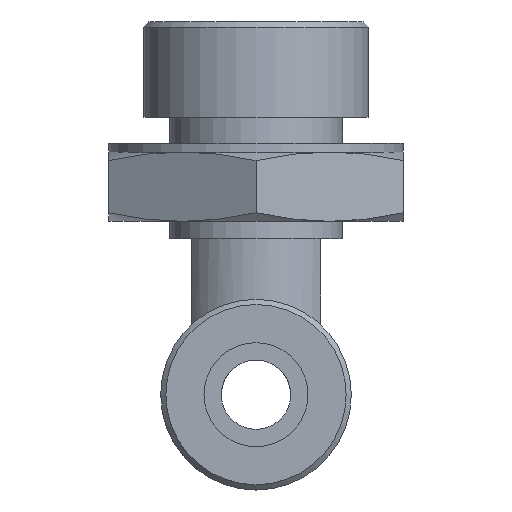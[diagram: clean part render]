
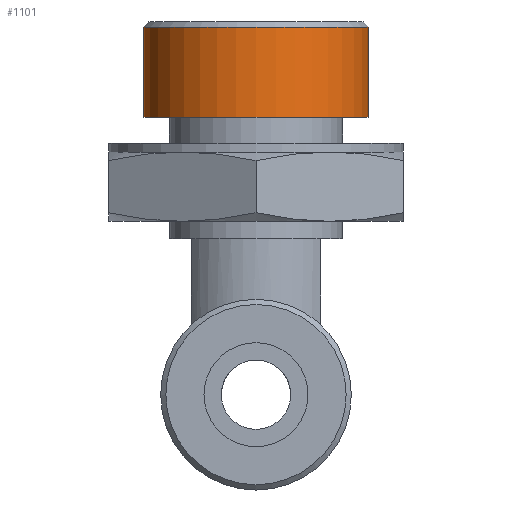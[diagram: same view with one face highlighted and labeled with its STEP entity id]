
A CAD part, front view. The second image highlights one B-rep face of the part: STEP entity #1101.
In plain terms, the highlighted cylindrical face has radius 6.5 mm (diameter 13 mm), a full revolution.
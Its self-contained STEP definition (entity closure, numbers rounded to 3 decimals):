
#141=FACE_OUTER_BOUND('',#221,.T.);
#221=EDGE_LOOP('',(#791,#792,#793,#794,#795));
#305=LINE('',#1872,#351);
#351=VECTOR('',#1491,6.5);
#412=CIRCLE('',#1270,6.5);
#413=CIRCLE('',#1271,6.5);
#414=CIRCLE('',#1274,6.5);
#498=VERTEX_POINT('',#1864);
#499=VERTEX_POINT('',#1866);
#500=VERTEX_POINT('',#1871);
#606=EDGE_CURVE('',#498,#499,#412,.T.);
#607=EDGE_CURVE('',#499,#498,#413,.T.);
#608=EDGE_CURVE('',#499,#500,#305,.T.);
#609=EDGE_CURVE('',#500,#500,#414,.T.);
#791=ORIENTED_EDGE('',*,*,#606,.F.);
#792=ORIENTED_EDGE('',*,*,#607,.F.);
#793=ORIENTED_EDGE('',*,*,#608,.T.);
#794=ORIENTED_EDGE('',*,*,#609,.T.);
#795=ORIENTED_EDGE('',*,*,#608,.F.);
#1070=CYLINDRICAL_SURFACE('',#1273,6.5);
#1101=ADVANCED_FACE('',(#141),#1070,.T.);
#1270=AXIS2_PLACEMENT_3D('',#1867,#1483,#1484);
#1271=AXIS2_PLACEMENT_3D('',#1868,#1485,#1486);
#1273=AXIS2_PLACEMENT_3D('',#1870,#1489,#1490);
#1274=AXIS2_PLACEMENT_3D('',#1873,#1492,#1493);
#1483=DIRECTION('center_axis',(0.,0.,1.));
#1484=DIRECTION('ref_axis',(1.,0.,0.));
#1485=DIRECTION('center_axis',(0.,0.,1.));
#1486=DIRECTION('ref_axis',(1.,0.,0.));
#1489=DIRECTION('center_axis',(0.,0.,1.));
#1490=DIRECTION('ref_axis',(-1.,0.,0.));
#1491=DIRECTION('',(0.,0.,-1.));
#1492=DIRECTION('center_axis',(0.,0.,1.));
#1493=DIRECTION('ref_axis',(1.,0.,0.));
#1864=CARTESIAN_POINT('',(-6.5,0.,21.2));
#1866=CARTESIAN_POINT('',(6.5,0.,21.2));
#1867=CARTESIAN_POINT('Origin',(0.,0.,21.2));
#1868=CARTESIAN_POINT('Origin',(0.,0.,21.2));
#1870=CARTESIAN_POINT('Origin',(0.,0.,18.75));
#1871=CARTESIAN_POINT('',(6.5,0.,16.));
#1872=CARTESIAN_POINT('',(6.5,0.,18.75));
#1873=CARTESIAN_POINT('Origin',(0.,0.,16.));
